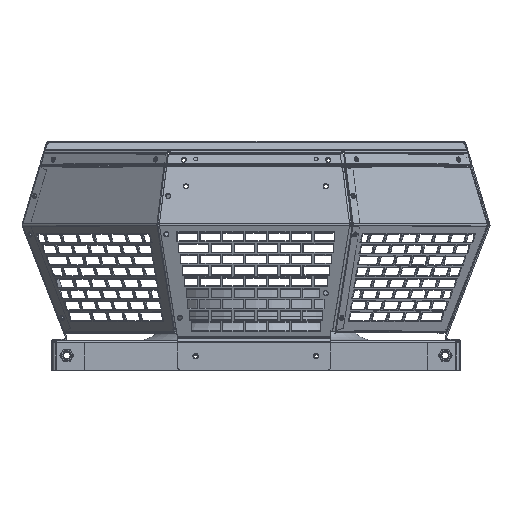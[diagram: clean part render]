
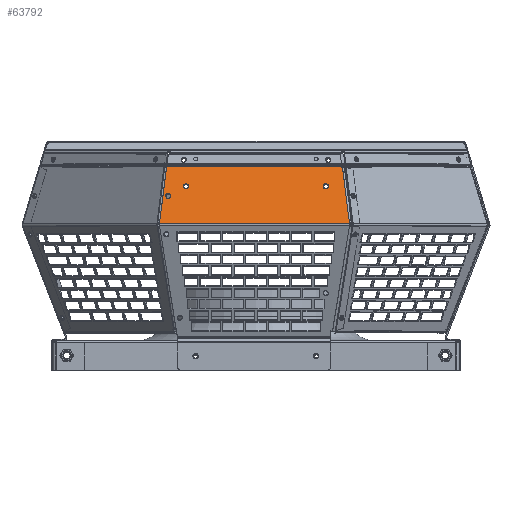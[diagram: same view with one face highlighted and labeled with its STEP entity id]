
A CAD part, top view. The second image highlights one B-rep face of the part: STEP entity #63792.
In plain terms, the highlighted planar face has unit normal (0, 0.288, 0.958).
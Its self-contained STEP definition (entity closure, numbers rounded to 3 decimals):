
#4362 = AXIS2_PLACEMENT_3D ( 'NONE', #29686, #29681, #29688 ) ;
#8398 = CARTESIAN_POINT ( 'NONE',  ( 77.555, 97.923, 193.912 ) ) ;
#14909 = CARTESIAN_POINT ( 'NONE',  ( 71.739, 144.572, 179.872 ) ) ;
#15813 = CARTESIAN_POINT ( 'NONE',  ( 71.183, 144.999, 179.744 ) ) ;
#22153 = CARTESIAN_POINT ( 'NONE',  ( 71.236, 144.572, 179.872 ) ) ;
#23375 = LINE ( 'NONE', #27512, #23380 ) ;
#23380 = VECTOR ( 'NONE', #27514, 1000. ) ;
#23424 = CIRCLE ( 'NONE', #34157, 2.1 ) ;
#23437 = LINE ( 'NONE', #27662, #23443 ) ;
#23440 = LINE ( 'NONE', #27680, #23450 ) ;
#23443 = VECTOR ( 'NONE', #27672, 1000. ) ;
#23444 = LINE ( 'NONE', #27670, #23446 ) ;
#23446 = VECTOR ( 'NONE', #27660, 1000. ) ;
#23450 = VECTOR ( 'NONE', #27695, 1000. ) ;
#23451 = LINE ( 'NONE', #27691, #23453 ) ;
#23453 = VECTOR ( 'NONE', #27677, 1000. ) ;
#26551 = FACE_BOUND ( 'NONE', #62466, .T. ) ;
#26554 = FACE_BOUND ( 'NONE', #62471, .T. ) ;
#26558 = FACE_BOUND ( 'NONE', #62473, .T. ) ;
#26559 = FACE_OUTER_BOUND ( 'NONE', #62470, .T. ) ;
#27512 = CARTESIAN_POINT ( 'NONE',  ( 77.603, 97.537, 194.028 ) ) ;
#27514 = DIRECTION ( 'NONE',  ( -0.119, 0.951, -0.286 ) ) ;
#27660 = DIRECTION ( 'NONE',  ( 0.119, -0.951, 0.286 ) ) ;
#27662 = CARTESIAN_POINT ( 'NONE',  ( 71.236, 144.572, 179.872 ) ) ;
#27664 = CARTESIAN_POINT ( 'NONE',  ( -72.783, 120.662, 187.068 ) ) ;
#27666 = DIRECTION ( 'NONE',  ( 0., -0.288, -0.958 ) ) ;
#27668 = DIRECTION ( 'NONE',  ( 0., 0.958, -0.288 ) ) ;
#27670 = CARTESIAN_POINT ( 'NONE',  ( 77.203, 96.704, 194.279 ) ) ;
#27672 = DIRECTION ( 'NONE',  ( 1., 0., 0. ) ) ;
#27677 = DIRECTION ( 'NONE',  ( -0.007, -0.958, 0.288 ) ) ;
#27680 = CARTESIAN_POINT ( 'NONE',  ( 79.94, 144.999, 179.744 ) ) ;
#27691 = CARTESIAN_POINT ( 'NONE',  ( 77.54, 96.026, 194.483 ) ) ;
#27695 = DIRECTION ( 'NONE',  ( -1., 0., 0. ) ) ;
#27977 = CARTESIAN_POINT ( 'NONE',  ( -72.783, 118.651, 187.673 ) ) ;
#28017 = CARTESIAN_POINT ( 'NONE',  ( 77.554, 97.804, 193.948 ) ) ;
#28036 = CARTESIAN_POINT ( 'NONE',  ( -74.177, 144.999, 179.744 ) ) ;
#28139 = CARTESIAN_POINT ( 'NONE',  ( 57.94, 130.666, 184.057 ) ) ;
#28156 = CARTESIAN_POINT ( 'NONE',  ( -58.06, 130.666, 184.057 ) ) ;
#28211 = CARTESIAN_POINT ( 'NONE',  ( 57.94, 126.644, 185.268 ) ) ;
#28281 = CARTESIAN_POINT ( 'NONE',  ( -72.783, 122.673, 186.463 ) ) ;
#28460 = CARTESIAN_POINT ( 'NONE',  ( -80.06, 97.804, 193.948 ) ) ;
#28638 = CARTESIAN_POINT ( 'NONE',  ( -58.06, 126.644, 185.268 ) ) ;
#29681 = DIRECTION ( 'NONE',  ( 0., -0.288, -0.958 ) ) ;
#29686 = CARTESIAN_POINT ( 'NONE',  ( 79.94, 97.017, 194.185 ) ) ;
#29687 = PLANE ( 'NONE',  #4362 ) ;
#29688 = DIRECTION ( 'NONE',  ( 0., 0.958, -0.288 ) ) ;
#33526 = AXIS2_PLACEMENT_3D ( 'NONE', #49206, #49207, #49209 ) ;
#33558 = AXIS2_PLACEMENT_3D ( 'NONE', #49582, #49584, #49585 ) ;
#33566 = AXIS2_PLACEMENT_3D ( 'NONE', #49684, #49686, #49688 ) ;
#33614 = AXIS2_PLACEMENT_3D ( 'NONE', #50243, #50244, #50245 ) ;
#33618 = AXIS2_PLACEMENT_3D ( 'NONE', #50286, #50287, #50288 ) ;
#34157 = AXIS2_PLACEMENT_3D ( 'NONE', #27664, #27666, #27668 ) ;
#47554 = CIRCLE ( 'NONE', #33526, 2.1 ) ;
#47704 = CIRCLE ( 'NONE', #33558, 2.1 ) ;
#47747 = CIRCLE ( 'NONE', #33566, 2.1 ) ;
#49206 = CARTESIAN_POINT ( 'NONE',  ( -72.783, 120.662, 187.068 ) ) ;
#49207 = DIRECTION ( 'NONE',  ( 0., -0.288, -0.958 ) ) ;
#49209 = DIRECTION ( 'NONE',  ( 0., 0.958, -0.288 ) ) ;
#49582 = CARTESIAN_POINT ( 'NONE',  ( 57.94, 128.655, 184.663 ) ) ;
#49584 = DIRECTION ( 'NONE',  ( 0., 0.288, 0.958 ) ) ;
#49585 = DIRECTION ( 'NONE',  ( 0., 0.958, -0.288 ) ) ;
#49684 = CARTESIAN_POINT ( 'NONE',  ( -58.06, 128.655, 184.663 ) ) ;
#49686 = DIRECTION ( 'NONE',  ( 0., -0.288, -0.958 ) ) ;
#49688 = DIRECTION ( 'NONE',  ( 0., 0.958, -0.288 ) ) ;
#50027 = CARTESIAN_POINT ( 'NONE',  ( -74.19, 144.896, 179.775 ) ) ;
#50028 = DIRECTION ( 'NONE',  ( 0.119, 0.951, -0.286 ) ) ;
#50038 = CARTESIAN_POINT ( 'NONE',  ( 79.94, 97.804, 193.948 ) ) ;
#50050 = DIRECTION ( 'NONE',  ( -1., 0., 0. ) ) ;
#50243 = CARTESIAN_POINT ( 'NONE',  ( -58.06, 128.655, 184.663 ) ) ;
#50244 = DIRECTION ( 'NONE',  ( 0., -0.288, -0.958 ) ) ;
#50245 = DIRECTION ( 'NONE',  ( 0., 0.958, -0.288 ) ) ;
#50286 = CARTESIAN_POINT ( 'NONE',  ( 57.94, 128.655, 184.663 ) ) ;
#50287 = DIRECTION ( 'NONE',  ( 0., 0.288, 0.958 ) ) ;
#50288 = DIRECTION ( 'NONE',  ( 0., 0.958, -0.288 ) ) ;
#51226 = LINE ( 'NONE', #50027, #51230 ) ;
#51230 = VECTOR ( 'NONE', #50028, 1000. ) ;
#51237 = LINE ( 'NONE', #50038, #51242 ) ;
#51242 = VECTOR ( 'NONE', #50050, 1000. ) ;
#51523 = CIRCLE ( 'NONE', #33614, 2.1 ) ;
#51566 = CIRCLE ( 'NONE', #33618, 2.1 ) ;
#54412 = VERTEX_POINT ( 'NONE', #8398 ) ;
#55476 = ORIENTED_EDGE ( 'NONE', *, *, #77628, .T. ) ;
#59769 = ORIENTED_EDGE ( 'NONE', *, *, #77632, .F. ) ;
#60201 = ORIENTED_EDGE ( 'NONE', *, *, #68112, .F. ) ;
#60209 = ORIENTED_EDGE ( 'NONE', *, *, #68135, .T. ) ;
#60223 = ORIENTED_EDGE ( 'NONE', *, *, #68284, .F. ) ;
#60230 = ORIENTED_EDGE ( 'NONE', *, *, #68370, .T. ) ;
#60240 = ORIENTED_EDGE ( 'NONE', *, *, #77634, .T. ) ;
#60248 = ORIENTED_EDGE ( 'NONE', *, *, #68279, .F. ) ;
#60255 = ORIENTED_EDGE ( 'NONE', *, *, #77636, .F. ) ;
#60343 = ORIENTED_EDGE ( 'NONE', *, *, #77588, .T. ) ;
#60344 = ORIENTED_EDGE ( 'NONE', *, *, #77630, .F. ) ;
#60353 = ORIENTED_EDGE ( 'NONE', *, *, #68030, .T. ) ;
#60373 = ORIENTED_EDGE ( 'NONE', *, *, #68388, .F. ) ;
#60915 = VERTEX_POINT ( 'NONE', #27977 ) ;
#60940 = VERTEX_POINT ( 'NONE', #28017 ) ;
#60952 = VERTEX_POINT ( 'NONE', #28036 ) ;
#61030 = VERTEX_POINT ( 'NONE', #28139 ) ;
#61047 = VERTEX_POINT ( 'NONE', #28156 ) ;
#61095 = VERTEX_POINT ( 'NONE', #28211 ) ;
#61155 = VERTEX_POINT ( 'NONE', #28281 ) ;
#61323 = VERTEX_POINT ( 'NONE', #28460 ) ;
#61608 = VERTEX_POINT ( 'NONE', #28638 ) ;
#62466 = EDGE_LOOP ( 'NONE', ( #55476, #60353 ) ) ;
#62470 = EDGE_LOOP ( 'NONE', ( #60343, #60344, #59769, #60240, #60248, #60223, #60255 ) ) ;
#62471 = EDGE_LOOP ( 'NONE', ( #60230, #60209 ) ) ;
#62473 = EDGE_LOOP ( 'NONE', ( #60201, #60373 ) ) ;
#63792 = ADVANCED_FACE ( 'NONE', ( #26551, #26559, #26554, #26558 ), #29687, .F. ) ;
#68030 = EDGE_CURVE ( 'NONE', #60915, #61155, #47554, .T. ) ;
#68112 = EDGE_CURVE ( 'NONE', #61030, #61095, #47704, .T. ) ;
#68135 = EDGE_CURVE ( 'NONE', #61608, #61047, #47747, .T. ) ;
#68279 = EDGE_CURVE ( 'NONE', #61323, #60952, #51226, .T. ) ;
#68284 = EDGE_CURVE ( 'NONE', #60940, #61323, #51237, .T. ) ;
#68370 = EDGE_CURVE ( 'NONE', #61047, #61608, #51523, .T. ) ;
#68388 = EDGE_CURVE ( 'NONE', #61095, #61030, #51566, .T. ) ;
#73921 = VERTEX_POINT ( 'NONE', #14909 ) ;
#74208 = VERTEX_POINT ( 'NONE', #15813 ) ;
#75169 = VERTEX_POINT ( 'NONE', #22153 ) ;
#77588 = EDGE_CURVE ( 'NONE', #54412, #73921, #23375, .T. ) ;
#77628 = EDGE_CURVE ( 'NONE', #61155, #60915, #23424, .T. ) ;
#77630 = EDGE_CURVE ( 'NONE', #75169, #73921, #23437, .T. ) ;
#77632 = EDGE_CURVE ( 'NONE', #74208, #75169, #23444, .T. ) ;
#77634 = EDGE_CURVE ( 'NONE', #74208, #60952, #23440, .T. ) ;
#77636 = EDGE_CURVE ( 'NONE', #54412, #60940, #23451, .T. ) ;
